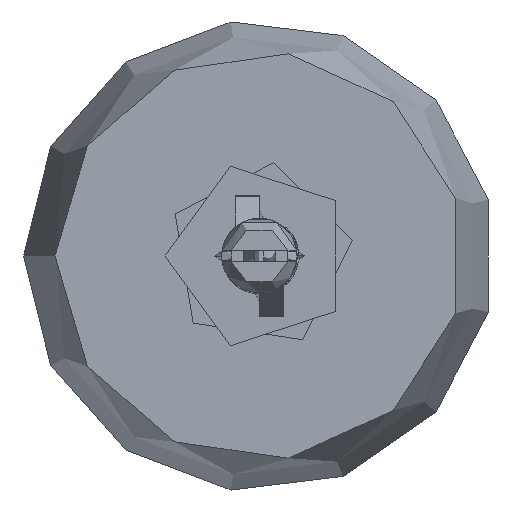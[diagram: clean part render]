
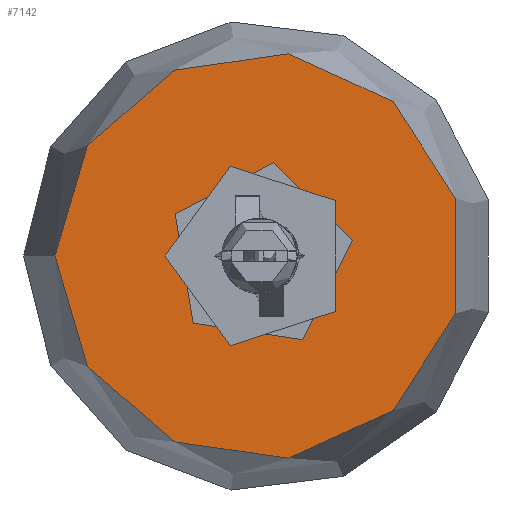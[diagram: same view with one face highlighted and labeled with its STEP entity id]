
A CAD part, front view. The second image highlights one B-rep face of the part: STEP entity #7142.
In plain terms, the highlighted planar face has unit normal (0, -1, 0).
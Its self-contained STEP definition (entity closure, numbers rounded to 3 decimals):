
#2023=PLANE('',#7550);
#2235=FACE_BOUND('',#2692,.T.);
#2290=FACE_OUTER_BOUND('',#2691,.T.);
#2691=EDGE_LOOP('',(#4984));
#2692=EDGE_LOOP('',(#4985));
#3144=CIRCLE('',#7548,10.25);
#3146=CIRCLE('',#7551,32.5);
#3251=VERTEX_POINT('',#9720);
#3253=VERTEX_POINT('',#9725);
#3938=EDGE_CURVE('',#3251,#3251,#3144,.T.);
#3940=EDGE_CURVE('',#3253,#3253,#3146,.T.);
#4984=ORIENTED_EDGE('',*,*,#3940,.F.);
#4985=ORIENTED_EDGE('',*,*,#3938,.T.);
#7142=ADVANCED_FACE('',(#2290,#2235),#2023,.T.);
#7548=AXIS2_PLACEMENT_3D('',#9721,#8085,#8086);
#7550=AXIS2_PLACEMENT_3D('',#9724,#8089,#8090);
#7551=AXIS2_PLACEMENT_3D('',#9726,#8091,#8092);
#8085=DIRECTION('center_axis',(0.,1.,0.));
#8086=DIRECTION('ref_axis',(-1.,0.,0.));
#8089=DIRECTION('center_axis',(0.,-1.,0.));
#8090=DIRECTION('ref_axis',(0.,0.,-1.));
#8091=DIRECTION('center_axis',(0.,1.,0.));
#8092=DIRECTION('ref_axis',(-1.,0.,0.));
#9720=CARTESIAN_POINT('',(-10.25,0.,0.));
#9721=CARTESIAN_POINT('Origin',(0.,0.,0.));
#9724=CARTESIAN_POINT('Origin',(-21.375,0.,0.));
#9725=CARTESIAN_POINT('',(-32.5,0.,0.));
#9726=CARTESIAN_POINT('Origin',(0.,0.,0.));
